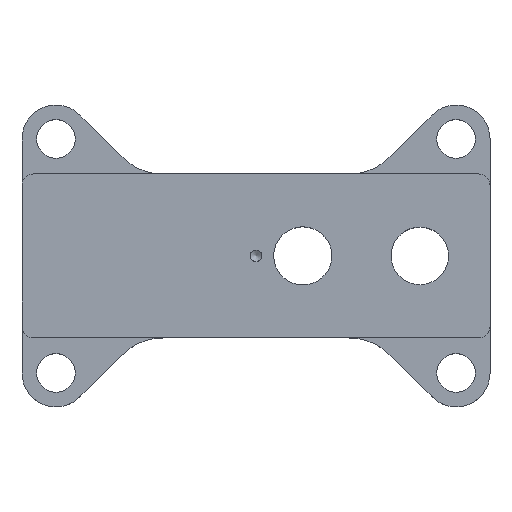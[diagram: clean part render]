
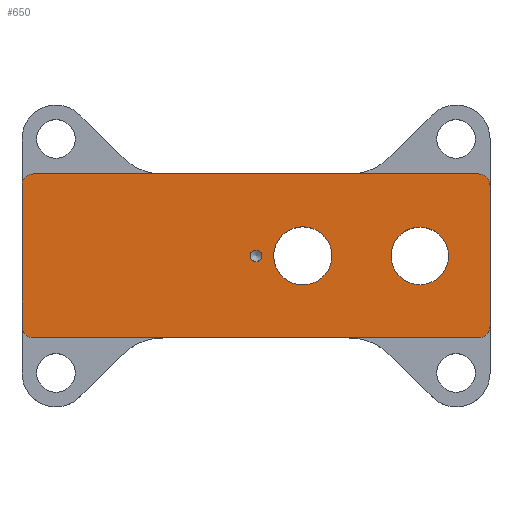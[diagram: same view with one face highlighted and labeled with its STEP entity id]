
A CAD part, top view. The second image highlights one B-rep face of the part: STEP entity #650.
In plain terms, the highlighted planar face has unit normal (0, 0, 1).
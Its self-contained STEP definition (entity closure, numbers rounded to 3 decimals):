
#15=FACE_BOUND('',#108,.T.);
#16=FACE_BOUND('',#109,.T.);
#17=FACE_BOUND('',#110,.T.);
#28=PLANE('',#729);
#73=FACE_OUTER_BOUND('',#107,.T.);
#107=EDGE_LOOP('',(#496,#497,#498,#499,#500,#501,#502,#503));
#108=EDGE_LOOP('',(#504));
#109=EDGE_LOOP('',(#505));
#110=EDGE_LOOP('',(#506));
#158=LINE('',#1052,#214);
#159=LINE('',#1053,#215);
#160=LINE('',#1054,#216);
#161=LINE('',#1055,#217);
#214=VECTOR('',#855,10.);
#215=VECTOR('',#856,10.);
#216=VECTOR('',#857,10.);
#217=VECTOR('',#858,10.);
#255=CIRCLE('',#698,0.5);
#256=CIRCLE('',#700,2.489);
#258=CIRCLE('',#703,2.459);
#269=CIRCLE('',#719,1.);
#271=CIRCLE('',#722,1.);
#273=CIRCLE('',#725,1.);
#275=CIRCLE('',#728,1.);
#294=VERTEX_POINT('',#976);
#295=VERTEX_POINT('',#980);
#297=VERTEX_POINT('',#986);
#309=VERTEX_POINT('',#1019);
#310=VERTEX_POINT('',#1021);
#313=VERTEX_POINT('',#1028);
#314=VERTEX_POINT('',#1030);
#317=VERTEX_POINT('',#1037);
#318=VERTEX_POINT('',#1039);
#321=VERTEX_POINT('',#1046);
#322=VERTEX_POINT('',#1048);
#357=EDGE_CURVE('',#294,#294,#255,.T.);
#359=EDGE_CURVE('',#295,#295,#256,.T.);
#362=EDGE_CURVE('',#297,#297,#258,.T.);
#379=EDGE_CURVE('',#310,#309,#269,.T.);
#383=EDGE_CURVE('',#314,#313,#271,.T.);
#387=EDGE_CURVE('',#318,#317,#273,.T.);
#391=EDGE_CURVE('',#322,#321,#275,.T.);
#393=EDGE_CURVE('',#309,#322,#158,.T.);
#394=EDGE_CURVE('',#321,#318,#159,.T.);
#395=EDGE_CURVE('',#317,#314,#160,.T.);
#396=EDGE_CURVE('',#313,#310,#161,.T.);
#496=ORIENTED_EDGE('',*,*,#393,.T.);
#497=ORIENTED_EDGE('',*,*,#391,.T.);
#498=ORIENTED_EDGE('',*,*,#394,.T.);
#499=ORIENTED_EDGE('',*,*,#387,.T.);
#500=ORIENTED_EDGE('',*,*,#395,.T.);
#501=ORIENTED_EDGE('',*,*,#383,.T.);
#502=ORIENTED_EDGE('',*,*,#396,.T.);
#503=ORIENTED_EDGE('',*,*,#379,.T.);
#504=ORIENTED_EDGE('',*,*,#357,.T.);
#505=ORIENTED_EDGE('',*,*,#359,.T.);
#506=ORIENTED_EDGE('',*,*,#362,.T.);
#650=ADVANCED_FACE('',(#73,#15,#16,#17),#28,.T.);
#698=AXIS2_PLACEMENT_3D('',#977,#776,#777);
#700=AXIS2_PLACEMENT_3D('',#981,#781,#782);
#703=AXIS2_PLACEMENT_3D('',#987,#788,#789);
#719=AXIS2_PLACEMENT_3D('',#1022,#826,#827);
#722=AXIS2_PLACEMENT_3D('',#1031,#834,#835);
#725=AXIS2_PLACEMENT_3D('',#1040,#842,#843);
#728=AXIS2_PLACEMENT_3D('',#1049,#850,#851);
#729=AXIS2_PLACEMENT_3D('',#1051,#853,#854);
#776=DIRECTION('center_axis',(0.,0.,-1.));
#777=DIRECTION('ref_axis',(1.,0.,0.));
#781=DIRECTION('center_axis',(0.,0.,-1.));
#782=DIRECTION('ref_axis',(1.,0.,0.));
#788=DIRECTION('center_axis',(0.,0.,-1.));
#789=DIRECTION('ref_axis',(1.,0.,0.));
#826=DIRECTION('center_axis',(0.,0.,1.));
#827=DIRECTION('ref_axis',(1.,0.,0.));
#834=DIRECTION('center_axis',(0.,0.,1.));
#835=DIRECTION('ref_axis',(0.,-1.,0.));
#842=DIRECTION('center_axis',(0.,0.,1.));
#843=DIRECTION('ref_axis',(-1.,0.,0.));
#850=DIRECTION('center_axis',(0.,0.,1.));
#851=DIRECTION('ref_axis',(0.,1.,0.));
#853=DIRECTION('center_axis',(0.,0.,1.));
#854=DIRECTION('ref_axis',(1.,0.,0.));
#855=DIRECTION('',(-1.,0.,0.));
#856=DIRECTION('',(0.,-1.,0.));
#857=DIRECTION('',(1.,0.,0.));
#858=DIRECTION('',(0.,1.,0.));
#976=CARTESIAN_POINT('',(-0.5,0.,8.));
#977=CARTESIAN_POINT('Origin',(0.,0.,8.));
#980=CARTESIAN_POINT('',(1.511,0.,8.));
#981=CARTESIAN_POINT('Origin',(4.,0.,8.));
#986=CARTESIAN_POINT('',(11.542,0.,8.));
#987=CARTESIAN_POINT('Origin',(14.,0.,8.));
#1019=CARTESIAN_POINT('',(19.,7.,8.));
#1021=CARTESIAN_POINT('',(20.,6.,8.));
#1022=CARTESIAN_POINT('Origin',(19.,6.,8.));
#1028=CARTESIAN_POINT('',(20.,-6.,8.));
#1030=CARTESIAN_POINT('',(19.,-7.,8.));
#1031=CARTESIAN_POINT('Origin',(19.,-6.,8.));
#1037=CARTESIAN_POINT('',(-19.,-7.,8.));
#1039=CARTESIAN_POINT('',(-20.,-6.,8.));
#1040=CARTESIAN_POINT('Origin',(-19.,-6.,8.));
#1046=CARTESIAN_POINT('',(-20.,6.,8.));
#1048=CARTESIAN_POINT('',(-19.,7.,8.));
#1049=CARTESIAN_POINT('Origin',(-19.,6.,8.));
#1051=CARTESIAN_POINT('Origin',(0.,0.,
8.));
#1052=CARTESIAN_POINT('',(19.,7.,8.));
#1053=CARTESIAN_POINT('',(-20.,10.,8.));
#1054=CARTESIAN_POINT('',(-19.,-7.,8.));
#1055=CARTESIAN_POINT('',(20.,-10.,8.));
